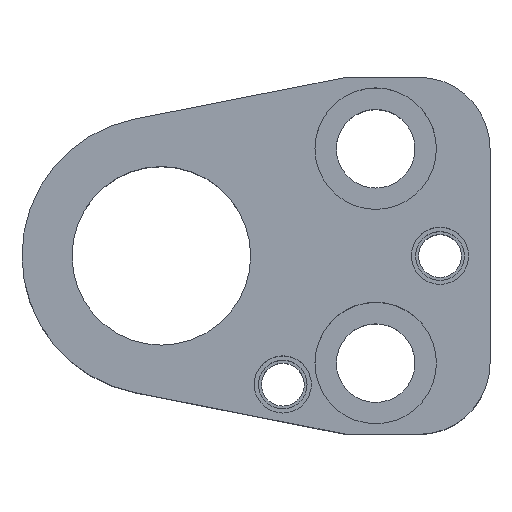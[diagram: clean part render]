
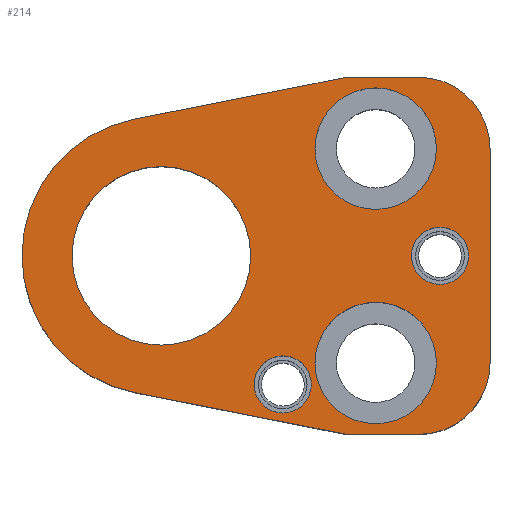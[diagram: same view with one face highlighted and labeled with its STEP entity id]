
A CAD part, top view. The second image highlights one B-rep face of the part: STEP entity #214.
In plain terms, the highlighted planar face has unit normal (0, 0, 1).
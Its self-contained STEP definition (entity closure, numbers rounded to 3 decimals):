
#100=FACE_BOUND('',#305,.T.);
#101=FACE_BOUND('',#306,.T.);
#102=FACE_BOUND('',#307,.T.);
#103=FACE_BOUND('',#308,.T.);
#104=FACE_BOUND('',#309,.T.);
#105=FACE_BOUND('',#310,.T.);
#148=CIRCLE('',#832,10.);
#150=CIRCLE('',#836,10.);
#152=CIRCLE('',#840,4.);
#154=CIRCLE('',#843,4.);
#156=CIRCLE('',#846,4.);
#158=CIRCLE('',#849,4.);
#168=CIRCLE('',#864,19.5);
#169=CIRCLE('',#865,8.5);
#170=CIRCLE('',#866,8.5);
#171=CIRCLE('',#867,8.5);
#172=CIRCLE('',#868,8.5);
#173=CIRCLE('',#869,12.5);
#174=CIRCLE('',#870,12.5);
#214=ADVANCED_FACE('',(#100,#101,#102,#103,#104,#105),#246,.T.);
#246=PLANE('',#871);
#305=EDGE_LOOP('',(#401,#402,#403,#404,#405,#406,#407,#408));
#306=EDGE_LOOP('',(#409,#410));
#307=EDGE_LOOP('',(#411,#412));
#308=EDGE_LOOP('',(#413,#414));
#309=EDGE_LOOP('',(#415,#416));
#310=EDGE_LOOP('',(#417,#418));
#401=ORIENTED_EDGE('',*,*,#627,.T.);
#402=ORIENTED_EDGE('',*,*,#631,.T.);
#403=ORIENTED_EDGE('',*,*,#634,.T.);
#404=ORIENTED_EDGE('',*,*,#637,.T.);
#405=ORIENTED_EDGE('',*,*,#640,.T.);
#406=ORIENTED_EDGE('',*,*,#666,.T.);
#407=ORIENTED_EDGE('',*,*,#667,.T.);
#408=ORIENTED_EDGE('',*,*,#668,.T.);
#409=ORIENTED_EDGE('',*,*,#669,.F.);
#410=ORIENTED_EDGE('',*,*,#670,.F.);
#411=ORIENTED_EDGE('',*,*,#671,.F.);
#412=ORIENTED_EDGE('',*,*,#672,.F.);
#413=ORIENTED_EDGE('',*,*,#652,.F.);
#414=ORIENTED_EDGE('',*,*,#648,.F.);
#415=ORIENTED_EDGE('',*,*,#646,.F.);
#416=ORIENTED_EDGE('',*,*,#642,.F.);
#417=ORIENTED_EDGE('',*,*,#673,.T.);
#418=ORIENTED_EDGE('',*,*,#674,.T.);
#558=VERTEX_POINT('',#1171);
#559=VERTEX_POINT('',#1173);
#562=VERTEX_POINT('',#1180);
#564=VERTEX_POINT('',#1186);
#566=VERTEX_POINT('',#1192);
#568=VERTEX_POINT('',#1198);
#569=VERTEX_POINT('',#1203);
#570=VERTEX_POINT('',#1204);
#573=VERTEX_POINT('',#1215);
#574=VERTEX_POINT('',#1216);
#585=VERTEX_POINT('',#1251);
#586=VERTEX_POINT('',#1253);
#587=VERTEX_POINT('',#1256);
#588=VERTEX_POINT('',#1257);
#589=VERTEX_POINT('',#1260);
#590=VERTEX_POINT('',#1261);
#591=VERTEX_POINT('',#1264);
#592=VERTEX_POINT('',#1265);
#627=EDGE_CURVE('',#559,#558,#731,.T.);
#631=EDGE_CURVE('',#558,#562,#148,.T.);
#634=EDGE_CURVE('',#562,#564,#736,.T.);
#637=EDGE_CURVE('',#564,#566,#150,.T.);
#640=EDGE_CURVE('',#566,#568,#740,.T.);
#642=EDGE_CURVE('',#569,#570,#152,.T.);
#646=EDGE_CURVE('',#570,#569,#154,.T.);
#648=EDGE_CURVE('',#573,#574,#156,.T.);
#652=EDGE_CURVE('',#574,#573,#158,.T.);
#666=EDGE_CURVE('',#568,#585,#750,.T.);
#667=EDGE_CURVE('',#585,#586,#168,.T.);
#668=EDGE_CURVE('',#586,#559,#751,.T.);
#669=EDGE_CURVE('',#587,#588,#169,.T.);
#670=EDGE_CURVE('',#588,#587,#170,.T.);
#671=EDGE_CURVE('',#589,#590,#171,.T.);
#672=EDGE_CURVE('',#590,#589,#172,.T.);
#673=EDGE_CURVE('',#591,#592,#173,.T.);
#674=EDGE_CURVE('',#592,#591,#174,.T.);
#731=LINE('',#1172,#781);
#736=LINE('',#1187,#786);
#740=LINE('',#1199,#790);
#750=LINE('',#1250,#800);
#751=LINE('',#1254,#801);
#781=VECTOR('',#929,1.);
#786=VECTOR('',#942,1.);
#790=VECTOR('',#954,1.);
#800=VECTOR('',#1014,1.);
#801=VECTOR('',#1017,1.);
#832=AXIS2_PLACEMENT_3D('',#1181,#935,#936);
#836=AXIS2_PLACEMENT_3D('',#1193,#947,#948);
#840=AXIS2_PLACEMENT_3D('',#1202,#958,#959);
#843=AXIS2_PLACEMENT_3D('',#1211,#966,#967);
#846=AXIS2_PLACEMENT_3D('',#1214,#972,#973);
#849=AXIS2_PLACEMENT_3D('',#1223,#980,#981);
#864=AXIS2_PLACEMENT_3D('',#1252,#1015,#1016);
#865=AXIS2_PLACEMENT_3D('',#1255,#1018,#1019);
#866=AXIS2_PLACEMENT_3D('',#1258,#1020,#1021);
#867=AXIS2_PLACEMENT_3D('',#1259,#1022,#1023);
#868=AXIS2_PLACEMENT_3D('',#1262,#1024,#1025);
#869=AXIS2_PLACEMENT_3D('',#1263,#1026,#1027);
#870=AXIS2_PLACEMENT_3D('',#1266,#1028,#1029);
#871=AXIS2_PLACEMENT_3D('',#1267,#1030,#1031);
#929=DIRECTION('',(1.,0.,0.));
#935=DIRECTION('',(0.,0.,1.));
#936=DIRECTION('',(-0.707,0.707,0.));
#942=DIRECTION('',(0.,1.,0.));
#947=DIRECTION('',(0.,0.,1.));
#948=DIRECTION('',(-0.707,-0.707,0.));
#954=DIRECTION('',(-1.,0.,0.));
#958=DIRECTION('',(0.,0.,1.));
#959=DIRECTION('',(-1.,0.,0.));
#966=DIRECTION('',(0.,0.,1.));
#967=DIRECTION('',(1.,0.,0.));
#972=DIRECTION('',(0.,0.,1.));
#973=DIRECTION('',(-1.,0.,0.));
#980=DIRECTION('',(0.,0.,1.));
#981=DIRECTION('',(1.,0.,0.));
#1014=DIRECTION('',(-0.981,-0.193,0.));
#1015=DIRECTION('',(0.,0.,1.));
#1016=DIRECTION('',(1.,0.,0.));
#1017=DIRECTION('',(0.981,-0.193,0.));
#1018=DIRECTION('',(0.,0.,1.));
#1019=DIRECTION('',(1.,0.,0.));
#1020=DIRECTION('',(0.,0.,1.));
#1021=DIRECTION('',(-1.,0.,0.));
#1022=DIRECTION('',(0.,0.,1.));
#1023=DIRECTION('',(1.,0.,0.));
#1024=DIRECTION('',(0.,0.,1.));
#1025=DIRECTION('',(-1.,0.,0.));
#1026=DIRECTION('',(0.,0.,-1.));
#1027=DIRECTION('',(-1.,0.,0.));
#1028=DIRECTION('',(0.,0.,-1.));
#1029=DIRECTION('',(1.,0.,0.));
#1030=DIRECTION('',(0.,0.,1.));
#1031=DIRECTION('',(0.981,-0.193,0.));
#1171=CARTESIAN_POINT('',(36.,-25.,30.));
#1172=CARTESIAN_POINT('',(26.,-25.,30.));
#1173=CARTESIAN_POINT('',(26.,-25.,30.));
#1180=CARTESIAN_POINT('',(46.,-15.,30.));
#1181=CARTESIAN_POINT('',(36.,-15.,30.));
#1186=CARTESIAN_POINT('',(46.,15.,30.));
#1187=CARTESIAN_POINT('',(46.,15.,30.));
#1192=CARTESIAN_POINT('',(36.,25.,30.));
#1193=CARTESIAN_POINT('',(36.,15.,30.));
#1198=CARTESIAN_POINT('',(26.,25.,30.));
#1199=CARTESIAN_POINT('',(26.,25.,30.));
#1202=CARTESIAN_POINT('',(17.,-18.,30.));
#1203=CARTESIAN_POINT('',(17.,-22.,30.));
#1204=CARTESIAN_POINT('',(17.,-14.,30.));
#1211=CARTESIAN_POINT('',(17.,-18.,30.));
#1214=CARTESIAN_POINT('',(39.,0.,30.));
#1215=CARTESIAN_POINT('',(39.,-4.,30.));
#1216=CARTESIAN_POINT('',(39.,4.,30.));
#1223=CARTESIAN_POINT('',(39.,0.,30.));
#1250=CARTESIAN_POINT('',(26.,25.,30.));
#1251=CARTESIAN_POINT('',(-3.771,19.132,30.));
#1252=CARTESIAN_POINT('',(0.,0.,30.));
#1253=CARTESIAN_POINT('',(-3.771,-19.132,30.));
#1254=CARTESIAN_POINT('',(26.,-25.,30.));
#1255=CARTESIAN_POINT('',(30.,-15.,30.));
#1256=CARTESIAN_POINT('',(30.,-6.5,30.));
#1257=CARTESIAN_POINT('',(30.,-23.5,30.));
#1258=CARTESIAN_POINT('',(30.,-15.,30.));
#1259=CARTESIAN_POINT('',(30.,15.,30.));
#1260=CARTESIAN_POINT('',(30.,23.5,30.));
#1261=CARTESIAN_POINT('',(30.,6.5,30.));
#1262=CARTESIAN_POINT('',(30.,15.,30.));
#1263=CARTESIAN_POINT('',(0.,0.,30.));
#1264=CARTESIAN_POINT('',(0.,12.5,30.));
#1265=CARTESIAN_POINT('',(0.,-12.5,30.));
#1266=CARTESIAN_POINT('',(0.,0.,30.));
#1267=CARTESIAN_POINT('',(26.,-25.,30.));
